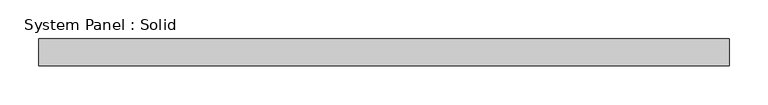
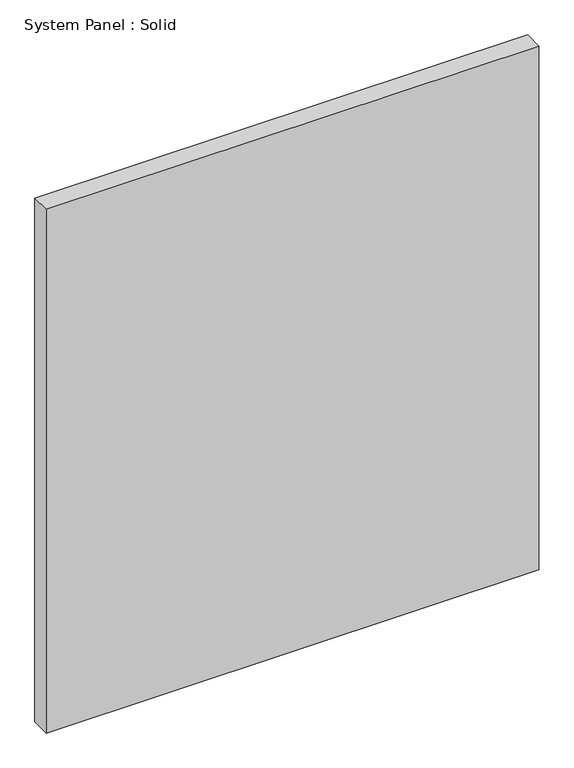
"""IFC4 building model written with IfcOpenShell, lengths in millimetres: plate geometry, System Panel : Solid."""

from ifc_helpers import new_model, si_unit, origin, origin_with_axes, place, context, project, spatial, polyline, outline, extrude, source, transform, mapped, element, save


def system_panel_solid_ed8a8987(model_context):
    return source(origin(), model_context, "Body", "SweptSolid", [
        extrude(outline(polyline([(444.9999998, -2.5), (-444.9999998, -2.5), (-444.9999998, 32.5), (444.9999998, 32.5), (444.9999998, -2.5)])), origin_with_axes(), (0.0, 0.0, 1.0), 1000.0),
    ])


if __name__ == "__main__":
    model = new_model("IFC4")
    model_context = context("Model", 3, world=origin())
    ifc_project = project(units=[si_unit("LENGTHUNIT", "METRE", prefix="MILLI")], contexts=[model_context])
    site = spatial("IfcSite", under=ifc_project)
    building = spatial("IfcBuilding", under=site)
    placement = place(None, origin())
    system_panel_solid_shape = system_panel_solid_ed8a8987(model_context)
    element("IfcPlate", 1, ObjectType="System Panel : Solid", at=placement, inside=building, context=model_context, shape_type="MappedRepresentation", body=[
        mapped(system_panel_solid_shape, transform((0.0, 0.0, 0.0), x_axis=(1.0, 0.0, 0.0), y_axis=(0.0, 1.0, 0.0), z_axis=(0.0, 0.0, 1.0))),
    ])
    save(model, "model.ifc")
